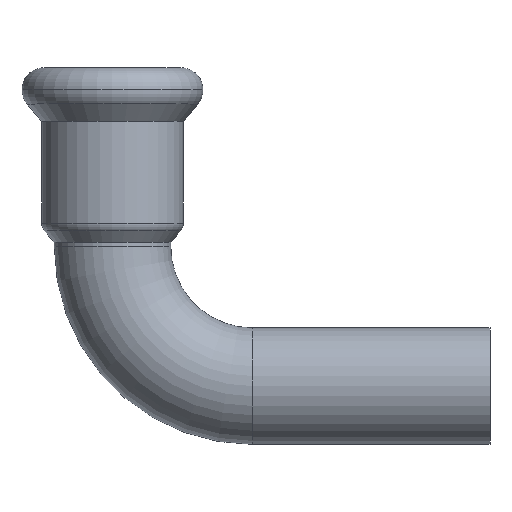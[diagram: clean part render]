
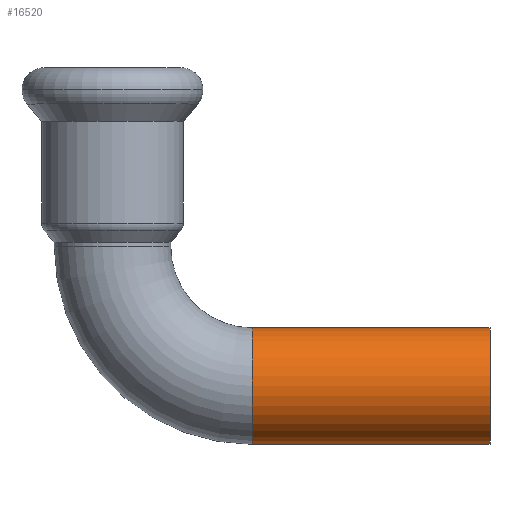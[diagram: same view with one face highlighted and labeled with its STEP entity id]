
A CAD part, top view. The second image highlights one B-rep face of the part: STEP entity #16520.
In plain terms, the highlighted cylindrical face has radius 7.5 mm (diameter 15 mm), a partial arc.
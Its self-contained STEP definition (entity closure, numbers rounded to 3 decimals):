
#14550=CARTESIAN_POINT('',(-78.193,27.909,0.));
#14560=VERTEX_POINT('',#14550);
#14650=CARTESIAN_POINT('',(-78.193,12.909,
0.));
#14660=VERTEX_POINT('',#14650);
#14690=CARTESIAN_POINT('',(-78.193,20.409,0.));
#14700=DIRECTION('',(1.,0.,0.));
#14710=DIRECTION('',(0.,1.,0.));
#14720=AXIS2_PLACEMENT_3D('',#14690,#14700,#14710);
#14730=CIRCLE('',#14720,7.5);
#15180=CARTESIAN_POINT('',(-78.193,20.409,0.));
#15190=DIRECTION('',(1.,0.,0.));
#15200=DIRECTION('',(0.,1.,0.));
#15210=AXIS2_PLACEMENT_3D('',#15180,#15190,#15200);
#15220=CYLINDRICAL_SURFACE('',#15210,7.5);
#15230=CARTESIAN_POINT('',(-78.193,27.909,0.));
#15240=DIRECTION('',(1.,0.,0.));
#15250=VECTOR('',#15240,1.);
#15260=LINE('',#15230,#15250);
#15270=CARTESIAN_POINT('',(-47.593,27.909,0.));
#15280=VERTEX_POINT('',#15270);
#15290=EDGE_CURVE('',#14560,#15280,#15260,.T.);
#15320=CARTESIAN_POINT('',(-78.193,12.909,
0.));
#15330=DIRECTION('',(1.,0.,0.));
#15340=VECTOR('',#15330,1.);
#15350=LINE('',#15320,#15340);
#15360=CARTESIAN_POINT('',(-47.593,12.909,
0.));
#15370=VERTEX_POINT('',#15360);
#15380=EDGE_CURVE('',#14660,#15370,#15350,.T.);
#15400=CARTESIAN_POINT('',(-47.593,20.409,0.));
#15410=DIRECTION('',(1.,0.,0.));
#15420=DIRECTION('',(0.,1.,0.));
#15430=AXIS2_PLACEMENT_3D('',#15400,#15410,#15420);
#15440=CIRCLE('',#15430,7.5);
#15550=EDGE_CURVE('',#15280,#15370,#15440,.T.);
#16450=ORIENTED_EDGE('',*,*,#15550,.F.);
#16460=ORIENTED_EDGE('',*,*,#15380,.T.);
#16470=EDGE_CURVE('',#14560,#14660,#14730,.T.);
#16480=ORIENTED_EDGE('',*,*,#16470,.T.);
#16490=ORIENTED_EDGE('',*,*,#15290,.F.);
#16500=EDGE_LOOP('',(#16490,#16480,#16460,#16450));
#16510=FACE_OUTER_BOUND('',#16500,.T.);
#16520=ADVANCED_FACE('',(#16510),#15220,.T.);
